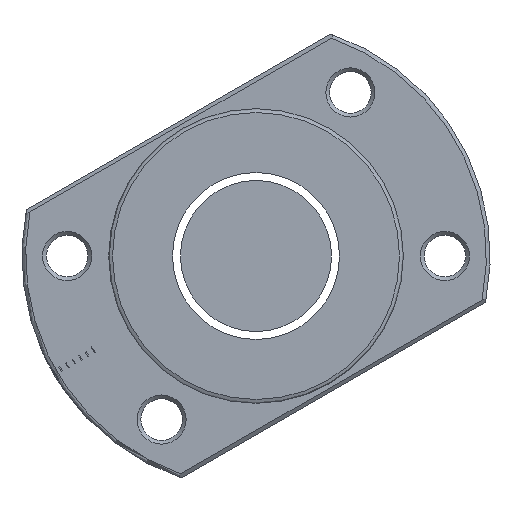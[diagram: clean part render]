
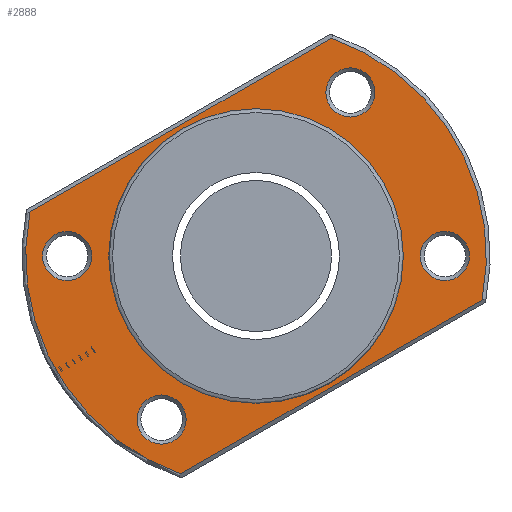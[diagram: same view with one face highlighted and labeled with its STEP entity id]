
A CAD part, left-side view. The second image highlights one B-rep face of the part: STEP entity #2888.
In plain terms, the highlighted planar face has unit normal (-1, 0, 0).
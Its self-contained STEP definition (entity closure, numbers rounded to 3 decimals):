
#41 = DIRECTION ( 'NONE',  ( 0., 0., 1. ) ) ;
#87 = DIRECTION ( 'NONE',  ( 0., 0.866, -0.5 ) ) ;
#279 = EDGE_CURVE ( 'NONE', #2527, #2527, #500, .T. ) ;
#282 = VERTEX_POINT ( 'NONE', #1795 ) ;
#342 = FACE_BOUND ( 'NONE', #1130, .T. ) ;
#356 = CARTESIAN_POINT ( 'NONE',  ( -35., -9.942, 28.834 ) ) ;
#376 = DIRECTION ( 'NONE',  ( 0., -0.866, 0.5 ) ) ;
#378 = ORIENTED_EDGE ( 'NONE', *, *, #1186, .T. ) ;
#414 = CARTESIAN_POINT ( 'NONE',  ( -35., -25., 3.25 ) ) ;
#451 = EDGE_CURVE ( 'NONE', #1354, #1354, #876, .T. ) ;
#482 = DIRECTION ( 'NONE',  ( 0., 0., 1. ) ) ;
#500 = CIRCLE ( 'NONE', #687, 19.5 ) ;
#528 = EDGE_CURVE ( 'NONE', #1412, #2614, #2030, .T. ) ;
#573 = FACE_BOUND ( 'NONE', #1814, .T. ) ;
#595 = DIRECTION ( 'NONE',  ( 1., 0., 0. ) ) ;
#632 = ORIENTED_EDGE ( 'NONE', *, *, #2357, .T. ) ;
#649 = VERTEX_POINT ( 'NONE', #2029 ) ;
#687 = AXIS2_PLACEMENT_3D ( 'NONE', #1535, #1075, #2880 ) ;
#732 = AXIS2_PLACEMENT_3D ( 'NONE', #1883, #1635, #1852 ) ;
#755 = VERTEX_POINT ( 'NONE', #1436 ) ;
#814 = CARTESIAN_POINT ( 'NONE',  ( -35., -25., 0. ) ) ;
#817 = EDGE_LOOP ( 'NONE', ( #1393 ) ) ;
#876 = CIRCLE ( 'NONE', #2270, 3.25 ) ;
#879 = CARTESIAN_POINT ( 'NONE',  ( -35., 25., 0. ) ) ;
#904 = CARTESIAN_POINT ( 'NONE',  ( -35., -12.5, 24.901 ) ) ;
#929 = EDGE_LOOP ( 'NONE', ( #378 ) ) ;
#947 = ORIENTED_EDGE ( 'NONE', *, *, #2693, .T. ) ;
#978 = AXIS2_PLACEMENT_3D ( 'NONE', #1827, #2747, #482 ) ;
#1038 = FACE_OUTER_BOUND ( 'NONE', #2903, .T. ) ;
#1068 = DIRECTION ( 'NONE',  ( 0., 0., 1. ) ) ;
#1075 = DIRECTION ( 'NONE',  ( 1., 0., 0. ) ) ;
#1130 = EDGE_LOOP ( 'NONE', ( #947 ) ) ;
#1186 = EDGE_CURVE ( 'NONE', #1836, #1836, #1889, .T. ) ;
#1295 = FACE_BOUND ( 'NONE', #929, .T. ) ;
#1299 = DIRECTION ( 'NONE',  ( -1., 0., 0. ) ) ;
#1333 = ORIENTED_EDGE ( 'NONE', *, *, #528, .T. ) ;
#1354 = VERTEX_POINT ( 'NONE', #2757 ) ;
#1388 = DIRECTION ( 'NONE',  ( 1., 0., 0. ) ) ;
#1393 = ORIENTED_EDGE ( 'NONE', *, *, #279, .T. ) ;
#1412 = VERTEX_POINT ( 'NONE', #2358 ) ;
#1436 = CARTESIAN_POINT ( 'NONE',  ( -35., 9.942, -28.834 ) ) ;
#1446 = CARTESIAN_POINT ( 'NONE',  ( -35., 33.25, 3.897 ) ) ;
#1448 = VECTOR ( 'NONE', #87, 1000. ) ;
#1500 = CARTESIAN_POINT ( 'NONE',  ( -35., 31., 0. ) ) ;
#1535 = CARTESIAN_POINT ( 'NONE',  ( -35., 0., 0. ) ) ;
#1551 = DIRECTION ( 'NONE',  ( 0., 0., 1. ) ) ;
#1601 = ORIENTED_EDGE ( 'NONE', *, *, #2246, .T. ) ;
#1623 = EDGE_CURVE ( 'NONE', #2614, #282, #1927, .T. ) ;
#1635 = DIRECTION ( 'NONE',  ( 1., 0., 0. ) ) ;
#1647 = AXIS2_PLACEMENT_3D ( 'NONE', #2862, #1942, #2225 ) ;
#1723 = DIRECTION ( 'NONE',  ( -1., 0., 0. ) ) ;
#1729 = DIRECTION ( 'NONE',  ( 0., 0., 1. ) ) ;
#1787 = AXIS2_PLACEMENT_3D ( 'NONE', #2908, #1299, #1729 ) ;
#1795 = CARTESIAN_POINT ( 'NONE',  ( -35., 29.942, 5.807 ) ) ;
#1814 = EDGE_LOOP ( 'NONE', ( #2261 ) ) ;
#1827 = CARTESIAN_POINT ( 'NONE',  ( -35., 0., 0. ) ) ;
#1836 = VERTEX_POINT ( 'NONE', #904 ) ;
#1852 = DIRECTION ( 'NONE',  ( 0., 0., 1. ) ) ;
#1883 = CARTESIAN_POINT ( 'NONE',  ( -35., -12.5, 21.651 ) ) ;
#1889 = CIRCLE ( 'NONE', #732, 3.25 ) ;
#1890 = AXIS2_PLACEMENT_3D ( 'NONE', #1500, #1723, #1068 ) ;
#1927 = LINE ( 'NONE', #1446, #1448 ) ;
#1942 = DIRECTION ( 'NONE',  ( 1., 0., 0. ) ) ;
#2028 = CIRCLE ( 'NONE', #2366, 3.25 ) ;
#2029 = CARTESIAN_POINT ( 'NONE',  ( -35., 12.5, -18.401 ) ) ;
#2030 = CIRCLE ( 'NONE', #978, 30.5 ) ;
#2073 = EDGE_LOOP ( 'NONE', ( #632 ) ) ;
#2152 = EDGE_CURVE ( 'NONE', #755, #1412, #2615, .T. ) ;
#2179 = FACE_BOUND ( 'NONE', #2073, .T. ) ;
#2225 = DIRECTION ( 'NONE',  ( 0., 0., 1. ) ) ;
#2246 = EDGE_CURVE ( 'NONE', #282, #755, #2940, .T. ) ;
#2248 = ORIENTED_EDGE ( 'NONE', *, *, #2152, .T. ) ;
#2261 = ORIENTED_EDGE ( 'NONE', *, *, #451, .T. ) ;
#2270 = AXIS2_PLACEMENT_3D ( 'NONE', #879, #1388, #41 ) ;
#2357 = EDGE_CURVE ( 'NONE', #2467, #2467, #2028, .T. ) ;
#2358 = CARTESIAN_POINT ( 'NONE',  ( -35., -29.942, -5.807 ) ) ;
#2366 = AXIS2_PLACEMENT_3D ( 'NONE', #814, #595, #1551 ) ;
#2467 = VERTEX_POINT ( 'NONE', #414 ) ;
#2491 = ORIENTED_EDGE ( 'NONE', *, *, #1623, .T. ) ;
#2497 = CARTESIAN_POINT ( 'NONE',  ( -35., 0., -19.5 ) ) ;
#2527 = VERTEX_POINT ( 'NONE', #2497 ) ;
#2562 = CIRCLE ( 'NONE', #1647, 3.25 ) ;
#2614 = VERTEX_POINT ( 'NONE', #356 ) ;
#2615 = LINE ( 'NONE', #2879, #2850 ) ;
#2693 = EDGE_CURVE ( 'NONE', #649, #649, #2562, .T. ) ;
#2747 = DIRECTION ( 'NONE',  ( -1., 0., 0. ) ) ;
#2757 = CARTESIAN_POINT ( 'NONE',  ( -35., 25., 3.25 ) ) ;
#2850 = VECTOR ( 'NONE', #376, 1000. ) ;
#2862 = CARTESIAN_POINT ( 'NONE',  ( -35., 12.5, -21.651 ) ) ;
#2874 = PLANE ( 'NONE',  #1890 ) ;
#2879 = CARTESIAN_POINT ( 'NONE',  ( -35., 13.25, -30.744 ) ) ;
#2880 = DIRECTION ( 'NONE',  ( 0., 0., -1. ) ) ;
#2887 = FACE_BOUND ( 'NONE', #817, .T. ) ;
#2888 = ADVANCED_FACE ( 'NONE', ( #342, #2179, #1295, #573, #2887, #1038 ), #2874, .T. ) ;
#2903 = EDGE_LOOP ( 'NONE', ( #2491, #1601, #2248, #1333 ) ) ;
#2908 = CARTESIAN_POINT ( 'NONE',  ( -35., 0., 0. ) ) ;
#2940 = CIRCLE ( 'NONE', #1787, 30.5 ) ;
